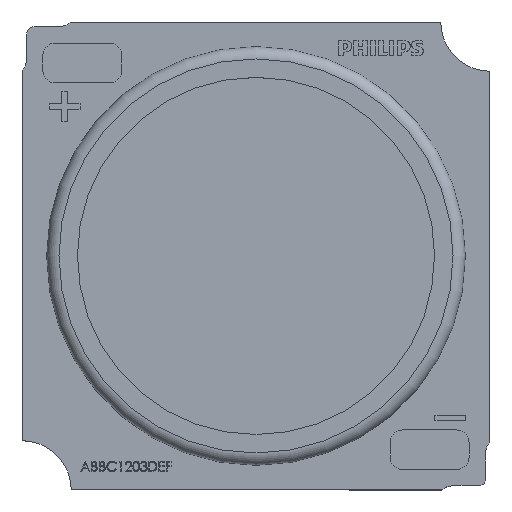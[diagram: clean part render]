
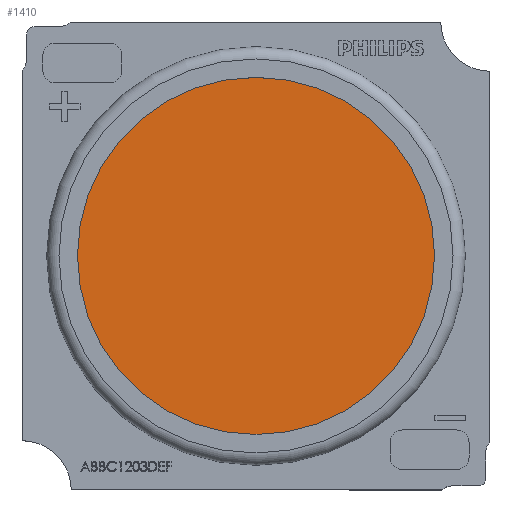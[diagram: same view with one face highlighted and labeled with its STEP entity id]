
A CAD part, top view. The second image highlights one B-rep face of the part: STEP entity #1410.
In plain terms, the highlighted planar face has unit normal (0, 0, 1).
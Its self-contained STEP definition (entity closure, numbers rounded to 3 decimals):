
#926=FACE_OUTER_BOUND('',#2385,.T.);
#1410=ADVANCED_FACE('',(#926),#1816,.T.);
#1816=PLANE('',#10288);
#2385=EDGE_LOOP('',(#5077));
#5077=ORIENTED_EDGE('',*,*,#7326,.F.);
#5980=VERTEX_POINT('',#18263);
#7326=EDGE_CURVE('',#5980,#5980,#9827,.T.);
#9827=CIRCLE('',#10287,7.25);
#10287=AXIS2_PLACEMENT_3D('',#18262,#12453,#12454);
#10288=AXIS2_PLACEMENT_3D('',#18264,#12455,#12456);
#12453=DIRECTION('',(0.,0.,-1.));
#12454=DIRECTION('',(1.,0.,0.));
#12455=DIRECTION('',(0.,0.,1.));
#12456=DIRECTION('',(-1.,0.,0.));
#18262=CARTESIAN_POINT('',(9.5,9.5,1.49));
#18263=CARTESIAN_POINT('',(16.75,9.5,1.49));
#18264=CARTESIAN_POINT('',(9.5,9.5,1.49));
